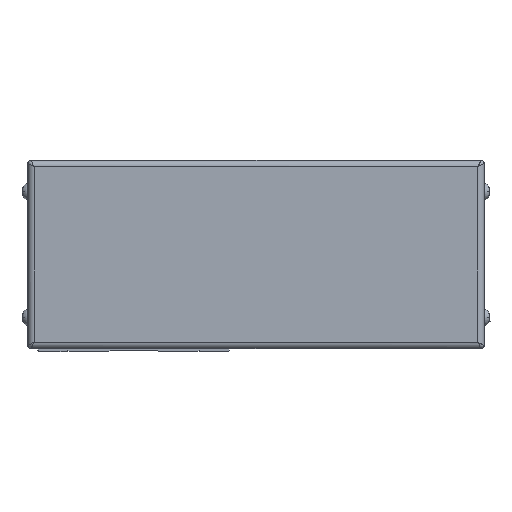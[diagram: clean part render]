
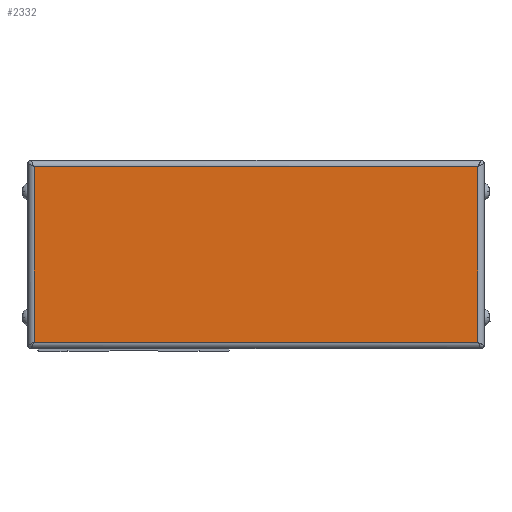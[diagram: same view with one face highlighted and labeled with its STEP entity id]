
A CAD part, left-side view. The second image highlights one B-rep face of the part: STEP entity #2332.
In plain terms, the highlighted planar face has unit normal (-1, 0, 0) as drawn and (0, 0, 1) by its records, which use the part's own axes.
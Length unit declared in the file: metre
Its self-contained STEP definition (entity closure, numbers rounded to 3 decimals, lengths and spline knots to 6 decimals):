
#2332=ADVANCED_FACE('',(#5550),#5551,.T.);
#5550=FACE_OUTER_BOUND('',#10435,.T.);
#5551=PLANE('',#10436);
#10435=EDGE_LOOP('',(#19176,#19177,#19178,#19179));
#10436=AXIS2_PLACEMENT_3D('',#19180,#19181,#19182);
#19176=ORIENTED_EDGE('',*,*,#31523,.F.);
#19177=ORIENTED_EDGE('',*,*,#31524,.F.);
#19178=ORIENTED_EDGE('',*,*,#31525,.F.);
#19179=ORIENTED_EDGE('',*,*,#31526,.F.);
#19180=CARTESIAN_POINT('',(-0.009,-0.053256,0.033889));
#19181=DIRECTION('',(0.0,0.0,1.0));
#19182=DIRECTION('',(1.0,0.0,0.0));
#31523=EDGE_CURVE('',#36633,#36634,#36635,.T.);
#31524=EDGE_CURVE('',#36636,#36633,#36637,.T.);
#31525=EDGE_CURVE('',#36638,#36636,#36639,.T.);
#31526=EDGE_CURVE('',#36634,#36638,#36640,.T.);
#36633=VERTEX_POINT('',#44100);
#36634=VERTEX_POINT('',#44101);
#36635=LINE('',#44102,#44103);
#36636=VERTEX_POINT('',#44104);
#36637=LINE('',#44105,#44106);
#36638=VERTEX_POINT('',#44107);
#36639=LINE('',#44108,#44109);
#36640=LINE('',#44110,#44111);
#44100=CARTESIAN_POINT('',(0.019,0.017444,0.033889));
#44101=CARTESIAN_POINT('',(0.019,-0.123956,0.033889));
#44102=CARTESIAN_POINT('',(0.019,-0.053256,0.033889));
#44103=VECTOR('',#54541,1.0);
#44104=CARTESIAN_POINT('',(-0.037,0.017444,0.033889));
#44105=CARTESIAN_POINT('',(-0.009,0.017444,0.033889));
#44106=VECTOR('',#54542,1.0);
#44107=CARTESIAN_POINT('',(-0.037,-0.123956,0.033889));
#44108=CARTESIAN_POINT('',(-0.037,-0.053256,0.033889));
#44109=VECTOR('',#54543,1.0);
#44110=CARTESIAN_POINT('',(-0.009,-0.123956,0.033889));
#44111=VECTOR('',#54544,1.0);
#54541=DIRECTION('',(0.0,-1.0,0.0));
#54542=DIRECTION('',(1.0,0.0,0.0));
#54543=DIRECTION('',(0.0,1.0,0.0));
#54544=DIRECTION('',(-1.0,0.0,0.0));
